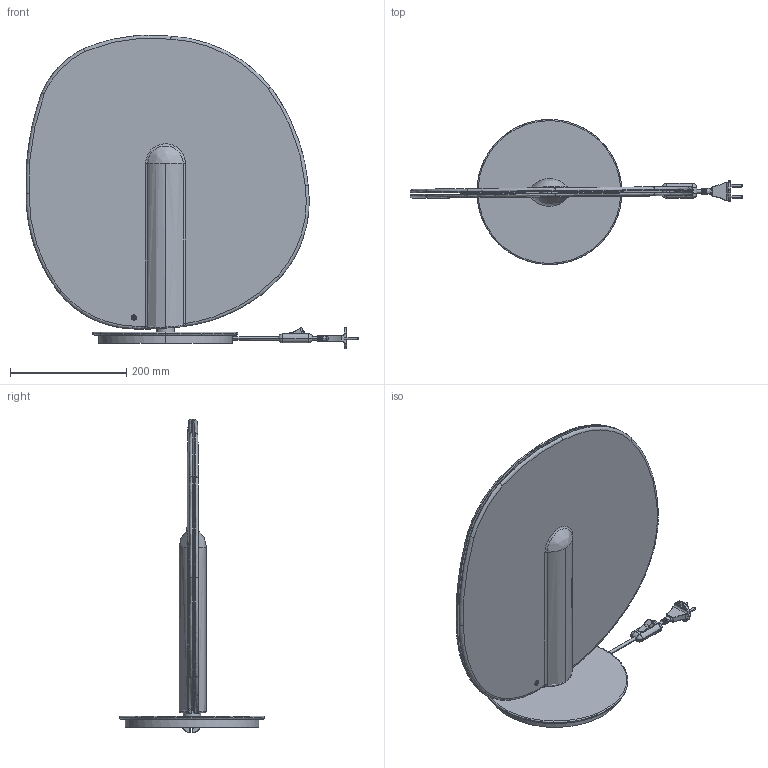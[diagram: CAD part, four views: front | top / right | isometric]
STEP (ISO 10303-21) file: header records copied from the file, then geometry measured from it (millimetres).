
FILE_DESCRIPTION(/* description */ (''),/* implementation_level */ '2;1');
FILE_NAME(/* name */ 'Lollipop Table lamp DF',/* time_stamp */ '2019-01-25T12:13:18+01:00',/* author */ (''),/* organization */ (''),/* preprocessor_version */ 'ST-DEVELOPER v15',/* originating_system */ '',/* authorisation */ '');
FILE_SCHEMA (('AUTOMOTIVE_DESIGN'));
Length unit declared in the file: millimetre
Products named in the file (1): Document
Bounding box: 572.25 x 250 x 540.87 mm (x, y, z)
Volume: 3467238.3 mm3; surface area: 1103642.9 mm2
Topology: 8 solids, 8 shells, 713 faces, 1870 edges, 1111 vertices
Faces by surface type: bspline 713
Entity records: 55037 total; most frequent: CARTESIAN_POINT 32374, B_SPLINE_CURVE_WITH_KNOTS 4556, ORIENTED_EDGE 3584, PCURVE 3584, DEFINITIONAL_REPRESENTATION 3584, SURFACE_CURVE 1792, EDGE_CURVE 1792, VERTEX_POINT 1111
